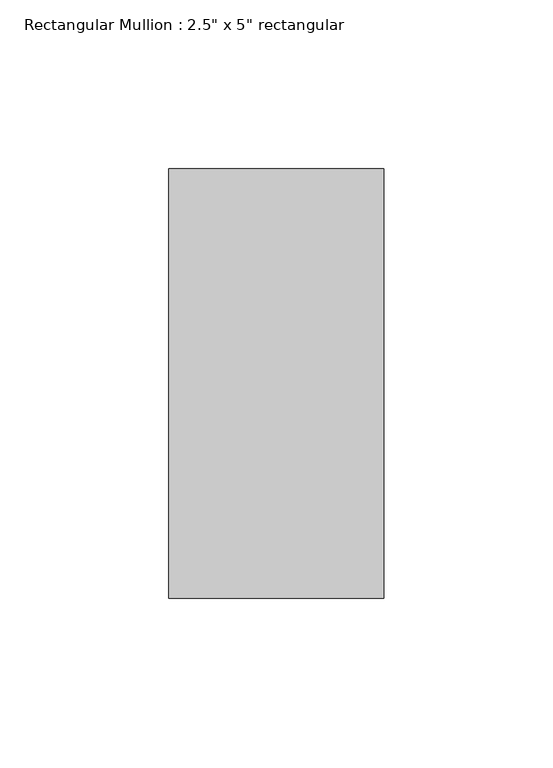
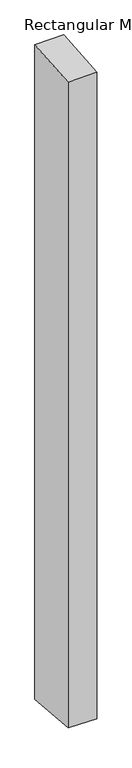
"""IFC4 building model written with IfcOpenShell, lengths in millimetres: member geometry."""

from ifc_helpers import new_model, si_unit, origin, place, context, project, spatial, faceted_brep, source, transform, mapped, element, save


def member_b7186879(model_context):
    return source(origin(), model_context, "Body", "Brep", [
        faceted_brep([(-63.5, 63.5, 4.2993304), (0.0, 63.5, 5.2282551), (0.0, 63.5, -1529.2282551), (-63.5, 63.5, -1528.2993304), (-63.5, -63.5, -6.1571798), (-63.5, -63.5, -1517.8428202), (0.0, -63.5, -5.2282551), (0.0, -63.5, -1518.7717449)], [[[0, 1, 2, 3]], [[4, 0, 3, 5]], [[6, 4, 5, 7]], [[1, 6, 7, 2]], [[1, 0, 4, 6]], [[2, 7, 5, 3]]]),
    ])


if __name__ == "__main__":
    model = new_model("IFC4")
    model_context = context("Model", 3, world=origin())
    ifc_project = project(units=[si_unit("LENGTHUNIT", "METRE", prefix="MILLI")], contexts=[model_context])
    site = spatial("IfcSite", under=ifc_project)
    building = spatial("IfcBuilding", under=site)
    placement = place(None, origin())
    member_shape = member_b7186879(model_context)
    element("IfcMember", 1, ObjectType="Rectangular Mullion : 2.5\" x 5\" rectangular", at=placement, inside=building, context=model_context, shape_type="MappedRepresentation", body=[
        mapped(member_shape, transform((0.0, 0.0, 0.0), x_axis=(1.0, 0.0, 0.0), y_axis=(0.0, 1.0, 0.0), z_axis=(0.0, 0.0, 1.0))),
    ])
    save(model, "model.ifc")
